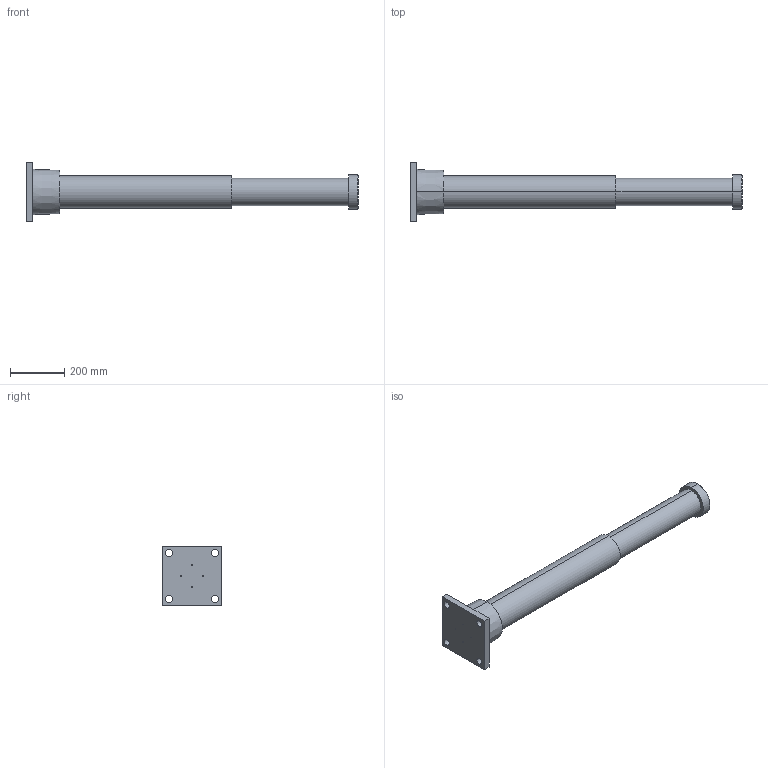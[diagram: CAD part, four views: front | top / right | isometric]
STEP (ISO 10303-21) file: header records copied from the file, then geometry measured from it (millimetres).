
FILE_DESCRIPTION (( 'STEP AP214' ), '1' );
FILE_NAME ('LDH120X400FR.STEP', '2019-01-21T05:00:54', ( 'user' ), ( 'Microsoft' ), 'SwSTEP 2.0', 'SolidWorks 2016', '' );
FILE_SCHEMA (( 'AUTOMOTIVE_DESIGN' ));
Length unit declared in the file: millimetre
Products named in the file (1): LDH120X400FR
Bounding box: 1225 x 220 x 220 mm (x, y, z)
Volume: 14256256.5 mm3; surface area: 570776 mm2
Topology: 1 solids, 1 shells, 40 faces, 88 edges, 58 vertices
Faces by surface type: cylinder 22, plane 14, cone 4
Entity records: 1176 total; most frequent: DIRECTION 220, CARTESIAN_POINT 187, ORIENTED_EDGE 176, AXIS2_PLACEMENT_3D 91, EDGE_CURVE 88, VERTEX_POINT 58, EDGE_LOOP 56, CIRCLE 50
